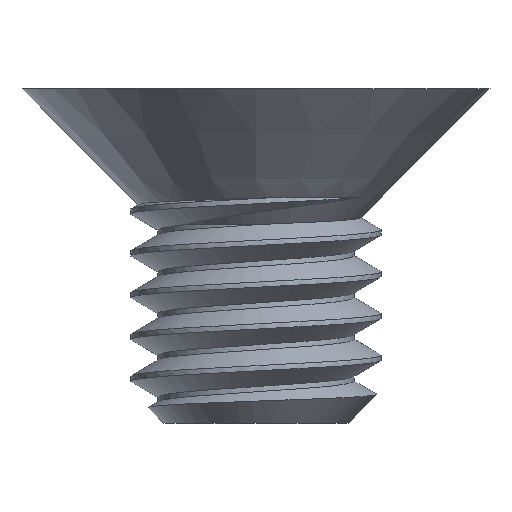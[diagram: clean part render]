
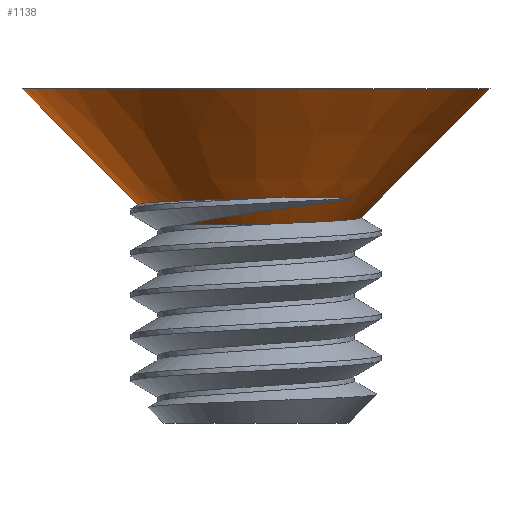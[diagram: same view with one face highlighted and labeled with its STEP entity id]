
A CAD part, left-side view. The second image highlights one B-rep face of the part: STEP entity #1138.
In plain terms, the highlighted conical face has half-angle 45 degrees and reference radius 1.5 mm.
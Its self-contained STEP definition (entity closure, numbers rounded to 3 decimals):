
#9 = DIRECTION ( 'NONE',  ( 0., 0., 1. ) ) ;
#16 = CARTESIAN_POINT ( 'NONE',  ( -0.876, -1.218, 0.35 ) ) ;
#43 = VERTEX_POINT ( 'NONE', #191 ) ;
#99 = ORIENTED_EDGE ( 'NONE', *, *, #1458, .T. ) ;
#104 = CARTESIAN_POINT ( 'NONE',  ( -1.175, -0.003, 0.025 ) ) ;
#108 = B_SPLINE_CURVE_WITH_KNOTS ( 'NONE', 3,
 ( #104, #1185, #470, #475, #1362, #2246, #285, #1730, #804, #465 ),
 .UNSPECIFIED., .F., .F.,
 ( 4, 2, 2, 2, 4 ),
 ( 0., 0., 0.001, 0.001, 0.002 ),
 .UNSPECIFIED. ) ;
#118 = CARTESIAN_POINT ( 'NONE',  ( -1.144, 0.309, 0.025 ) ) ;
#131 = CARTESIAN_POINT ( 'NONE',  ( 0., 1.413, 0.263 ) ) ;
#165 = CARTESIAN_POINT ( 'NONE',  ( -1.286, 0.217, 0.14 ) ) ;
#184 = DIRECTION ( 'NONE',  ( 0., 0.707, 0.707 ) ) ;
#191 = CARTESIAN_POINT ( 'NONE',  ( 0., -2.8, 1.65 ) ) ;
#266 = CARTESIAN_POINT ( 'NONE',  ( 0., 0., 0.35 ) ) ;
#285 = CARTESIAN_POINT ( 'NONE',  ( -0.605, -1.081, 0.079 ) ) ;
#293 = B_SPLINE_CURVE_WITH_KNOTS ( 'NONE', 3,
 ( #885, #340, #2128, #543, #1238, #710, #349, #333, #1050, #1619, #1964, #1418, #1437, #1595 ),
 .UNSPECIFIED., .F., .F.,
 ( 4, 2, 2, 2, 2, 2, 4 ),
 ( 0.006, 0.006, 0.007, 0.007, 0.008, 0.008, 0.009 ),
 .UNSPECIFIED. ) ;
#305 = LINE ( 'NONE', #1408, #823 ) ;
#311 = CARTESIAN_POINT ( 'NONE',  ( -1.013, -1.076, 0.325 ) ) ;
#325 = VERTEX_POINT ( 'NONE', #1482 ) ;
#327 = CARTESIAN_POINT ( 'NONE',  ( -1.176, -0.831, 0.287 ) ) ;
#329 = EDGE_CURVE ( 'NONE', #1426, #1190, #108, .T. ) ;
#333 = CARTESIAN_POINT ( 'NONE',  ( -1.186, 0.859, 0.311 ) ) ;
#340 = CARTESIAN_POINT ( 'NONE',  ( -0.105, 1.416, 0.266 ) ) ;
#344 = CARTESIAN_POINT ( 'NONE',  ( -1.155, 0.479, 0.097 ) ) ;
#349 = CARTESIAN_POINT ( 'NONE',  ( -0.977, 1.092, 0.3 ) ) ;
#465 = CARTESIAN_POINT ( 'NONE',  ( 0., -1.254, 0.104 ) ) ;
#470 = CARTESIAN_POINT ( 'NONE',  ( -1.156, -0.323, 0.039 ) ) ;
#475 = CARTESIAN_POINT ( 'NONE',  ( -1.043, -0.62, 0.052 ) ) ;
#477 = AXIS2_PLACEMENT_3D ( 'NONE', #937, #752, #2005 ) ;
#543 = CARTESIAN_POINT ( 'NONE',  ( -0.414, 1.37, 0.277 ) ) ;
#562 = LINE ( 'NONE', #1923, #1289 ) ;
#600 = VERTEX_POINT ( 'NONE', #2048 ) ;
#643 = B_SPLINE_CURVE_WITH_KNOTS ( 'NONE', 3,
 ( #2084, #834, #1744, #118, #1007, #2260 ),
 .UNSPECIFIED., .F., .F.,
 ( 4, 2, 4 ),
 ( 0., 0., 0.001 ),
 .UNSPECIFIED. ) ;
#675 = CARTESIAN_POINT ( 'NONE',  ( -0.876, -1.218, 0.35 ) ) ;
#710 = CARTESIAN_POINT ( 'NONE',  ( -0.802, 1.217, 0.292 ) ) ;
#752 = DIRECTION ( 'NONE',  ( 0., 0., 1. ) ) ;
#804 = CARTESIAN_POINT ( 'NONE',  ( -0.158, -1.249, 0.099 ) ) ;
#823 = VECTOR ( 'NONE', #184, 1000. ) ;
#828 = CARTESIAN_POINT ( 'NONE',  ( 0., 2.8, 1.65 ) ) ;
#834 = CARTESIAN_POINT ( 'NONE',  ( -0.937, 0.726, 0.025 ) ) ;
#838 = VERTEX_POINT ( 'NONE', #16 ) ;
#885 = CARTESIAN_POINT ( 'NONE',  ( 0., 1.413, 0.263 ) ) ;
#889 = CARTESIAN_POINT ( 'NONE',  ( -0.977, 0.712, 0.056 ) ) ;
#937 = CARTESIAN_POINT ( 'NONE',  ( 0., 0., 1.65 ) ) ;
#1007 = CARTESIAN_POINT ( 'NONE',  ( -1.176, 0.153, 0.025 ) ) ;
#1031 = CARTESIAN_POINT ( 'NONE',  ( -1.257, -0.653, 0.263 ) ) ;
#1050 = CARTESIAN_POINT ( 'NONE',  ( -1.248, 0.773, 0.314 ) ) ;
#1062 = CARTESIAN_POINT ( 'NONE',  ( -0.826, 0.836, 0.025 ) ) ;
#1110 = DIRECTION ( 'NONE',  ( 0., -1., 0. ) ) ;
#1128 = EDGE_CURVE ( 'NONE', #1789, #43, #2097, .T. ) ;
#1130 = ORIENTED_EDGE ( 'NONE', *, *, #1128, .F. ) ;
#1138 = ADVANCED_FACE ( 'NONE', ( #1636 ), #2058, .T. ) ;
#1185 = CARTESIAN_POINT ( 'NONE',  ( -1.182, -0.164, 0.032 ) ) ;
#1190 = VERTEX_POINT ( 'NONE', #2169 ) ;
#1200 = DIRECTION ( 'NONE',  ( 0., -0.707, 0.707 ) ) ;
#1232 = CARTESIAN_POINT ( 'NONE',  ( -1.338, -0.27, 0.212 ) ) ;
#1238 = CARTESIAN_POINT ( 'NONE',  ( -0.515, 1.339, 0.281 ) ) ;
#1289 = VECTOR ( 'NONE', #1200, 1000. ) ;
#1348 = ORIENTED_EDGE ( 'NONE', *, *, #329, .T. ) ;
#1354 = ORIENTED_EDGE ( 'NONE', *, *, #1630, .F. ) ;
#1359 = DIRECTION ( 'NONE',  ( 0., 0., -1. ) ) ;
#1362 = CARTESIAN_POINT ( 'NONE',  ( -0.955, -0.757, 0.058 ) ) ;
#1369 = ORIENTED_EDGE ( 'NONE', *, *, #1577, .T. ) ;
#1408 = CARTESIAN_POINT ( 'NONE',  ( 0., 1.5, 0.35 ) ) ;
#1418 = CARTESIAN_POINT ( 'NONE',  ( -1.487, 0.195, 0.335 ) ) ;
#1426 = VERTEX_POINT ( 'NONE', #1580 ) ;
#1437 = CARTESIAN_POINT ( 'NONE',  ( -1.507, -0.016, 0.343 ) ) ;
#1458 = EDGE_CURVE ( 'NONE', #1190, #43, #562, .T. ) ;
#1482 = CARTESIAN_POINT ( 'NONE',  ( -1.483, -0.225, 0.35 ) ) ;
#1577 = EDGE_CURVE ( 'NONE', #838, #600, #2208, .T. ) ;
#1580 = CARTESIAN_POINT ( 'NONE',  ( -1.175, -0.003, 0.025 ) ) ;
#1595 = CARTESIAN_POINT ( 'NONE',  ( -1.483, -0.225, 0.35 ) ) ;
#1606 = CARTESIAN_POINT ( 'NONE',  ( -1.101, 0.563, 0.083 ) ) ;
#1614 = ORIENTED_EDGE ( 'NONE', *, *, #1938, .F. ) ;
#1619 = CARTESIAN_POINT ( 'NONE',  ( -1.351, 0.592, 0.321 ) ) ;
#1630 = EDGE_CURVE ( 'NONE', #1983, #1789, #305, .T. ) ;
#1636 = FACE_OUTER_BOUND ( 'NONE', #1976, .T. ) ;
#1655 = EDGE_CURVE ( 'NONE', #1983, #325, #293, .T. ) ;
#1717 = DIRECTION ( 'NONE',  ( 0., 1., 0. ) ) ;
#1730 = CARTESIAN_POINT ( 'NONE',  ( -0.317, -1.211, 0.092 ) ) ;
#1744 = CARTESIAN_POINT ( 'NONE',  ( -1.025, 0.596, 0.025 ) ) ;
#1767 = CARTESIAN_POINT ( 'NONE',  ( -1.288, -0.561, 0.252 ) ) ;
#1789 = VERTEX_POINT ( 'NONE', #828 ) ;
#1836 = CARTESIAN_POINT ( 'NONE',  ( 0., 0., 0.35 ) ) ;
#1843 = AXIS2_PLACEMENT_3D ( 'NONE', #266, #1359, #1717 ) ;
#1877 = ORIENTED_EDGE ( 'NONE', *, *, #2099, .T. ) ;
#1922 = ORIENTED_EDGE ( 'NONE', *, *, #1655, .T. ) ;
#1923 = CARTESIAN_POINT ( 'NONE',  ( 0., -1.5, 0.35 ) ) ;
#1938 = EDGE_CURVE ( 'NONE', #838, #325, #2245, .T. ) ;
#1958 = CARTESIAN_POINT ( 'NONE',  ( -1.334, 0.021, 0.17 ) ) ;
#1964 = CARTESIAN_POINT ( 'NONE',  ( -1.393, 0.495, 0.324 ) ) ;
#1976 = EDGE_LOOP ( 'NONE', ( #1354, #1922, #1614, #1369, #1877, #1348, #99, #1130 ) ) ;
#1983 = VERTEX_POINT ( 'NONE', #131 ) ;
#2005 = DIRECTION ( 'NONE',  ( 0., -1., 0. ) ) ;
#2048 = CARTESIAN_POINT ( 'NONE',  ( -0.826, 0.836, 0.025 ) ) ;
#2058 = CONICAL_SURFACE ( 'NONE', #2072, 1.5, 0.785 ) ;
#2072 = AXIS2_PLACEMENT_3D ( 'NONE', #1836, #9, #1110 ) ;
#2084 = CARTESIAN_POINT ( 'NONE',  ( -0.826, 0.836, 0.025 ) ) ;
#2096 = CARTESIAN_POINT ( 'NONE',  ( -0.948, -1.15, 0.337 ) ) ;
#2097 = CIRCLE ( 'NONE', #477, 2.8 ) ;
#2099 = EDGE_CURVE ( 'NONE', #600, #1426, #643, .T. ) ;
#2101 = CARTESIAN_POINT ( 'NONE',  ( -1.126, -0.917, 0.3 ) ) ;
#2128 = CARTESIAN_POINT ( 'NONE',  ( -0.208, 1.408, 0.27 ) ) ;
#2132 = CARTESIAN_POINT ( 'NONE',  ( -1.329, -0.37, 0.226 ) ) ;
#2169 = CARTESIAN_POINT ( 'NONE',  ( 0., -1.254, 0.104 ) ) ;
#2208 = B_SPLINE_CURVE_WITH_KNOTS ( 'NONE', 3,
 ( #675, #2096, #311, #2101, #327, #1031, #1767, #2132, #1232, #1958, #165, #344, #1606, #889, #2317, #1062 ),
 .UNSPECIFIED., .F., .F.,
 ( 4, 2, 2, 2, 2, 2, 2, 4 ),
 ( 0., 0., 0.001, 0.001, 0.001, 0.002, 0.002, 0.002 ),
 .UNSPECIFIED. ) ;
#2245 = CIRCLE ( 'NONE', #1843, 1.5 ) ;
#2246 = CARTESIAN_POINT ( 'NONE',  ( -0.738, -0.987, 0.072 ) ) ;
#2260 = CARTESIAN_POINT ( 'NONE',  ( -1.175, -0.003, 0.025 ) ) ;
#2317 = CARTESIAN_POINT ( 'NONE',  ( -0.906, 0.779, 0.041 ) ) ;
